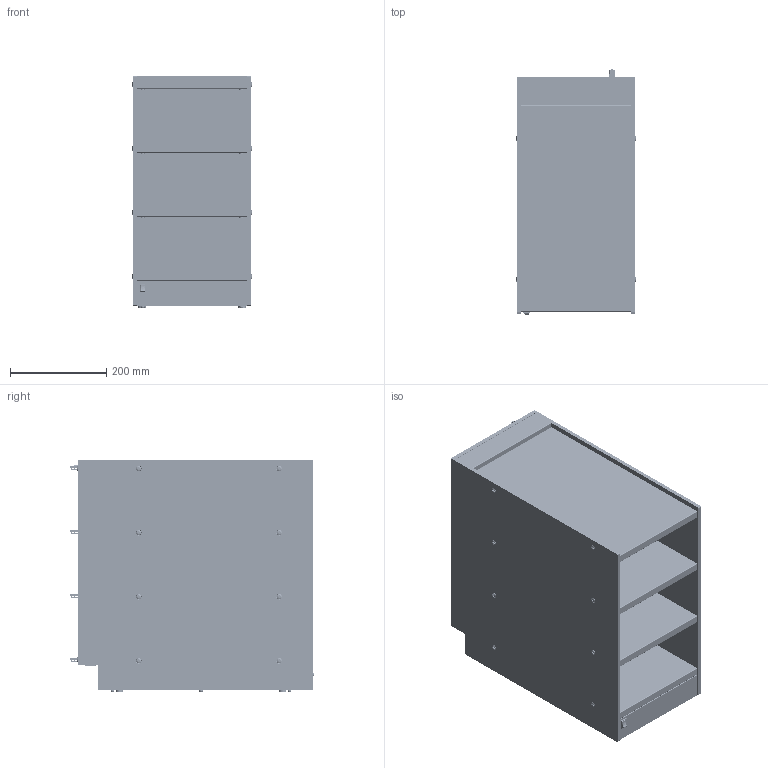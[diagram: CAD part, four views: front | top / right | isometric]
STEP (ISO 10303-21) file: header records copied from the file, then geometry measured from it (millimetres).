
FILE_DESCRIPTION(/* description */ ('Unknown'),/* implementation_level */ '2;1');
FILE_NAME(/* name */ '132.367_Tassenwärmer_BW4_00264537',/* time_stamp */ '2024-09-17T09:39:42+02:00',/* author */ ('Unknown'),/* organization */ ('Unknown'),/* preprocessor_version */ 'ST-DEVELOPER v19.4',/* originating_system */ 'Solid Edge',/* authorisation */ 'Unknown');
FILE_SCHEMA (('AUTOMOTIVE_DESIGN {1 0 10303 214 3 1 1}'));
Products named in the file (1): 132.367_Tassenwärmer_BW4_00264537
Bounding box: 249.33 x 508.7 x 483.3 mm (x, y, z)
Volume: 6033013.2 mm3; surface area: 3298910.4 mm2
Topology: 1 solids, 127 shells, 6260 faces, 17583 edges, 11583 vertices
Faces by surface type: plane 4239, cylinder 1372, cone 451, torus 186, sphere 10, bspline 2
Full cylindrical faces by diameter (mm): 0.01 x4, 1 x24, 1.7 x4, 2 x4, 2.4 x12, 3.3 x30, 3.8 x33, 4 x105, 4.2 x1, 4.3 x6, 4.5 x14, 4.8 x24, 5 x18, 5.34 x1, 5.6 x8, 5.8 x18, 6 x80, 6.14 x1, 6.5 x2, 7 x18, 7.5 x24, 8 x32, 9 x18, 9.1 x18, 9.4 x8, 16 x4
Entity records: 242059 total; most frequent: CARTESIAN_POINT 40781, ORIENTED_EDGE 32624, DIRECTION 31472, EDGE_CURVE 16312, VERTEX_POINT 11174, AXIS2_PLACEMENT_3D 11060, LINE 9352, VECTOR 9352
